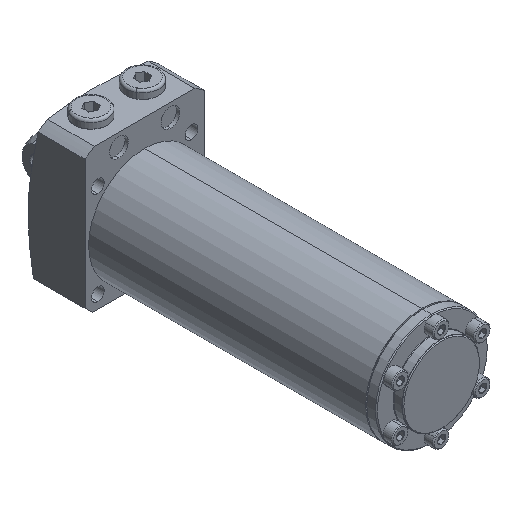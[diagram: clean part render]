
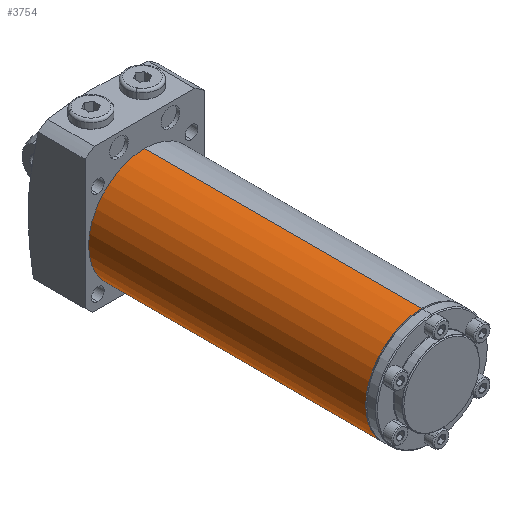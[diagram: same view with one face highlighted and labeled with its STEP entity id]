
A CAD part, isometric view. The second image highlights one B-rep face of the part: STEP entity #3754.
In plain terms, the highlighted cylindrical face has radius 24 mm (diameter 48 mm), a partial arc.
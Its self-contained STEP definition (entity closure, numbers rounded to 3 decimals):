
#8 = DIRECTION ( 'NONE',  ( 0., 1., 0. ) ) ;
#44 = AXIS2_PLACEMENT_3D ( 'NONE', #5365, #1932, #5945 ) ;
#112 = VERTEX_POINT ( 'NONE', #5371 ) ;
#206 = VECTOR ( 'NONE', #8, 1000. ) ;
#1114 = VECTOR ( 'NONE', #6794, 1000. ) ;
#1204 = EDGE_CURVE ( 'NONE', #1695, #5785, #2722, .T. ) ;
#1245 = CIRCLE ( 'NONE', #44, 24. ) ;
#1614 = CYLINDRICAL_SURFACE ( 'NONE', #5185, 24. ) ;
#1695 = VERTEX_POINT ( 'NONE', #7112 ) ;
#1932 = DIRECTION ( 'NONE',  ( 0., 1., 0. ) ) ;
#2119 = ORIENTED_EDGE ( 'NONE', *, *, #3847, .T. ) ;
#2173 = CARTESIAN_POINT ( 'NONE',  ( 0., 0., 0. ) ) ;
#2216 = CARTESIAN_POINT ( 'NONE',  ( 0., 0., 24. ) ) ;
#2354 = ORIENTED_EDGE ( 'NONE', *, *, #4090, .T. ) ;
#2450 = EDGE_CURVE ( 'NONE', #112, #1695, #4597, .T. ) ;
#2674 = CARTESIAN_POINT ( 'NONE',  ( 0., -118.5, 24. ) ) ;
#2722 = CIRCLE ( 'NONE', #6740, 24. ) ;
#2760 = DIRECTION ( 'NONE',  ( 0., 0., 1. ) ) ;
#2987 = DIRECTION ( 'NONE',  ( 0., 0., 1. ) ) ;
#3497 = FACE_OUTER_BOUND ( 'NONE', #6132, .T. ) ;
#3566 = DIRECTION ( 'NONE',  ( 0., 1., 0. ) ) ;
#3602 = VERTEX_POINT ( 'NONE', #6915 ) ;
#3754 = ADVANCED_FACE ( 'NONE', ( #3497 ), #1614, .T. ) ;
#3847 = EDGE_CURVE ( 'NONE', #112, #3602, #1245, .T. ) ;
#4090 = EDGE_CURVE ( 'NONE', #3602, #5785, #4345, .T. ) ;
#4345 = LINE ( 'NONE', #2674, #1114 ) ;
#4597 = LINE ( 'NONE', #6898, #206 ) ;
#5185 = AXIS2_PLACEMENT_3D ( 'NONE', #7009, #3566, #2987 ) ;
#5365 = CARTESIAN_POINT ( 'NONE',  ( 0., -118.5, 0. ) ) ;
#5371 = CARTESIAN_POINT ( 'NONE',  ( 0., -118.5, -24. ) ) ;
#5785 = VERTEX_POINT ( 'NONE', #2216 ) ;
#5885 = ORIENTED_EDGE ( 'NONE', *, *, #2450, .F. ) ;
#5945 = DIRECTION ( 'NONE',  ( 0., 0., 1. ) ) ;
#6132 = EDGE_LOOP ( 'NONE', ( #5885, #2119, #2354, #7132 ) ) ;
#6201 = DIRECTION ( 'NONE',  ( 0., 1., 0. ) ) ;
#6740 = AXIS2_PLACEMENT_3D ( 'NONE', #2173, #6201, #2760 ) ;
#6794 = DIRECTION ( 'NONE',  ( 0., 1., 0. ) ) ;
#6898 = CARTESIAN_POINT ( 'NONE',  ( 0., -118.5, -24. ) ) ;
#6915 = CARTESIAN_POINT ( 'NONE',  ( 0., -118.5, 24. ) ) ;
#7009 = CARTESIAN_POINT ( 'NONE',  ( 0., -118.5, 0. ) ) ;
#7112 = CARTESIAN_POINT ( 'NONE',  ( 0., 0., -24. ) ) ;
#7132 = ORIENTED_EDGE ( 'NONE', *, *, #1204, .F. ) ;
